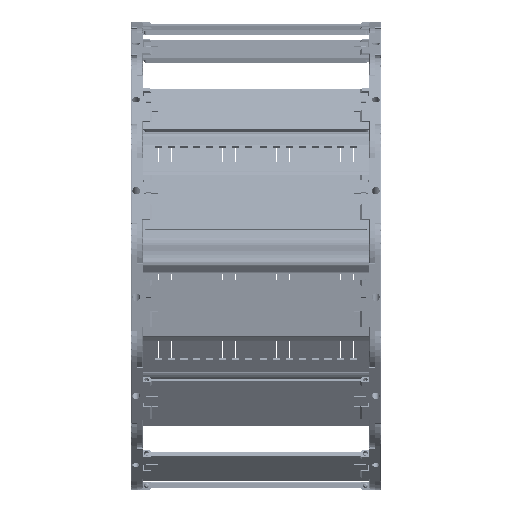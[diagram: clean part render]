
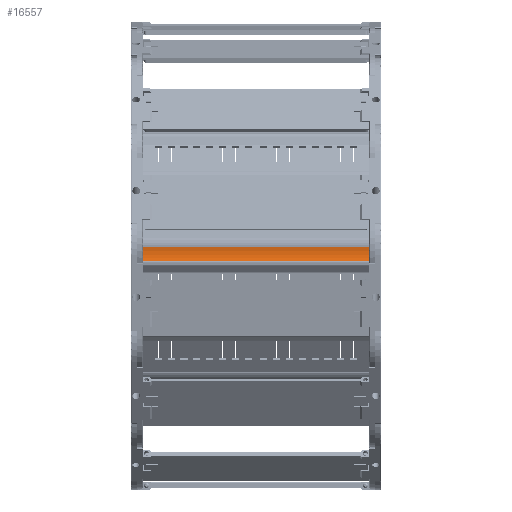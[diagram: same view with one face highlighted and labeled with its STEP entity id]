
A CAD part, front view. The second image highlights one B-rep face of the part: STEP entity #16557.
In plain terms, the highlighted cylindrical face has radius 20 mm (diameter 40 mm), a partial arc.
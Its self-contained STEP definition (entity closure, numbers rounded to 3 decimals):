
#10178=CARTESIAN_POINT('',(221.668,176.95,185.8));
#10179=VERTEX_POINT('',#10178);
#10187=CARTESIAN_POINT('',(232.171,179.93,185.8));
#10188=VERTEX_POINT('',#10187);
#10189=CARTESIAN_POINT('',(232.171,159.93,185.8));
#10190=DIRECTION('',(0.0,0.0,-1.0));
#10191=DIRECTION('',(0.0,-1.0,0.0));
#10192=AXIS2_PLACEMENT_3D('',#10189,#10190,#10191);
#10193=CIRCLE('',#10192,20.0);
#10194=EDGE_CURVE('',#10179,#10188,#10193,.T.);
#16131=CARTESIAN_POINT('',(221.668,176.95,9.2));
#16132=VERTEX_POINT('',#16131);
#16175=CARTESIAN_POINT('',(232.171,179.93,9.2));
#16176=VERTEX_POINT('',#16175);
#16183=CARTESIAN_POINT('',(232.171,159.93,9.2));
#16184=DIRECTION('',(0.0,0.0,-1.0));
#16185=DIRECTION('',(0.0,-1.0,0.0));
#16186=AXIS2_PLACEMENT_3D('',#16183,#16184,#16185);
#16187=CIRCLE('',#16186,20.0);
#16188=EDGE_CURVE('',#16132,#16176,#16187,.T.);
#16237=CARTESIAN_POINT('',(232.171,179.93,9.2));
#16238=DIRECTION('',(0.0,0.0,1.0));
#16239=VECTOR('',#16238,176.6);
#16240=LINE('',#16237,#16239);
#16241=EDGE_CURVE('',#16176,#10188,#16240,.T.);
#16541=CARTESIAN_POINT('',(232.171,159.93,9.0));
#16542=DIRECTION('',(0.0,0.0,1.0));
#16543=DIRECTION('',(0.0,-1.0,0.0));
#16544=AXIS2_PLACEMENT_3D('',#16541,#16542,#16543);
#16545=CYLINDRICAL_SURFACE('',#16544,20.0);
#16546=ORIENTED_EDGE('',*,*,#16188,.T.);
#16547=ORIENTED_EDGE('',*,*,#16241,.T.);
#16548=ORIENTED_EDGE('',*,*,#10194,.F.);
#16549=CARTESIAN_POINT('',(221.668,176.95,9.2));
#16550=DIRECTION('',(0.0,0.0,1.0));
#16551=VECTOR('',#16550,176.6);
#16552=LINE('',#16549,#16551);
#16553=EDGE_CURVE('',#16132,#10179,#16552,.T.);
#16554=ORIENTED_EDGE('',*,*,#16553,.F.);
#16555=EDGE_LOOP('',(#16546,#16547,#16548,#16554));
#16556=FACE_OUTER_BOUND('',#16555,.T.);
#16557=ADVANCED_FACE('',(#16556),#16545,.F.);
